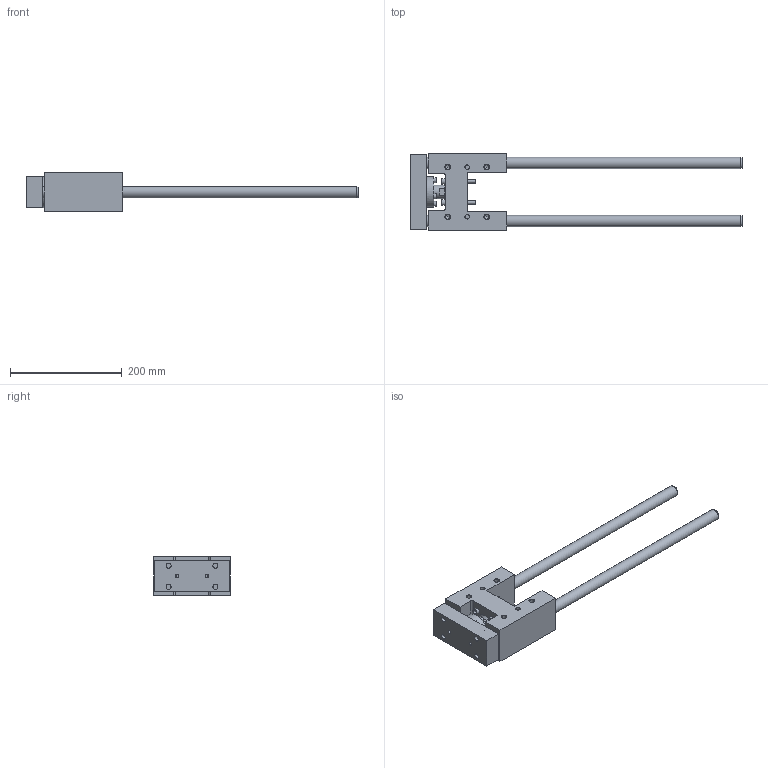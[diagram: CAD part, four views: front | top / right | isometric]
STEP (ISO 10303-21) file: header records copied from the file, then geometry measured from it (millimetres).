
FILE_DESCRIPTION( ( 'STEP AP214' ), '1' );
FILE_NAME( 'U:/Etudes/Top Solid/BIBLIO 3D AVM/TOP/PNEUMATIQUE/GUIDAGES/Type 32 (en H)/R_Renforcée/325R7_30.step', '2005-05-27T08:57:51', ( ' ' ), ( ' ' ), 'XStep 1.0', ' ', ' ' );
FILE_SCHEMA( ( 'automotive_design' ) );
Length unit declared in the file: metre
Products named in the file (2): 1; 2
Bounding box: 595 x 137 x 69 mm (x, y, z)
Volume: 1320055.9 mm3; surface area: 218583.1 mm2
Topology: 2 solids, 7 shells, 223 faces, 504 edges, 337 vertices
Faces by surface type: plane 128, cylinder 74, cone 21
Full cylindrical faces by diameter (mm): 5 x8, 6 x10, 6.5 x8, 6.647 x4, 8 x2, 8.376 x8, 8.5 x4, 9 x4, 10 x4, 10.2 x4, 10.647 x2, 15 x4, 20 x4, 24 x1, 26 x1, 34 x1, 35 x1, 37 x1, 55 x1
Entity records: 7481 total; most frequent: CARTESIAN_POINT 1145, DIRECTION 956, ORIENTED_EDGE 724, EDGE_LOOP 386, AXIS2_PLACEMENT_3D 377, EDGE_CURVE 362, FACE_OUTER_BOUND 295, VERTEX_POINT 294
